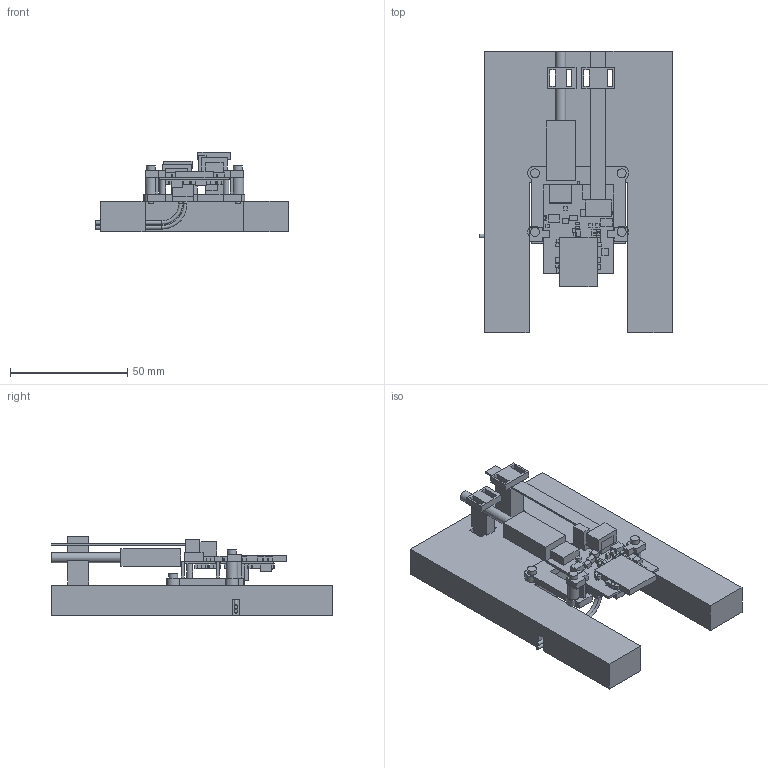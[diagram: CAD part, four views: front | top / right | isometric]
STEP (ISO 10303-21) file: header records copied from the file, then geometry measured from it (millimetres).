
FILE_DESCRIPTION(('FreeCAD Model'),'2;1');
FILE_NAME('Open CASCADE Shape Model','2026-11-02T01:51:29',('FreeCAD'),( 'FreeCAD'),'Open CASCADE STEP processor 7.8','FreeCAD','Unknown');
FILE_SCHEMA(('AUTOMOTIVE_DESIGN { 1 0 10303 214 1 1 1 1 }'));
Length unit declared in the file: millimetre
Products named in the file (1): Open CASCADE STEP translator 7.8 7
Bounding box: 82 x 120 x 33.74 mm (x, y, z)
Volume: 102306.9 mm3; surface area: 38497.1 mm2
Topology: 122 solids, 122 shells, 874 faces, 1840 edges, 1226 vertices
Faces by surface type: plane 833, cylinder 39, torus 2
Full cylindrical faces by diameter (mm): 1.5 x4, 2 x8, 2.3 x8, 2.5 x3, 3.8 x4, 4.3 x1, 5 x4
Entity records: 22778 total; most frequent: CARTESIAN_POINT 3941, DIRECTION 3684, ORIENTED_EDGE 3680, EDGE_CURVE 1840, LINE 1746, VECTOR 1746, VERTEX_POINT 1226, AXIS2_PLACEMENT_3D 969
